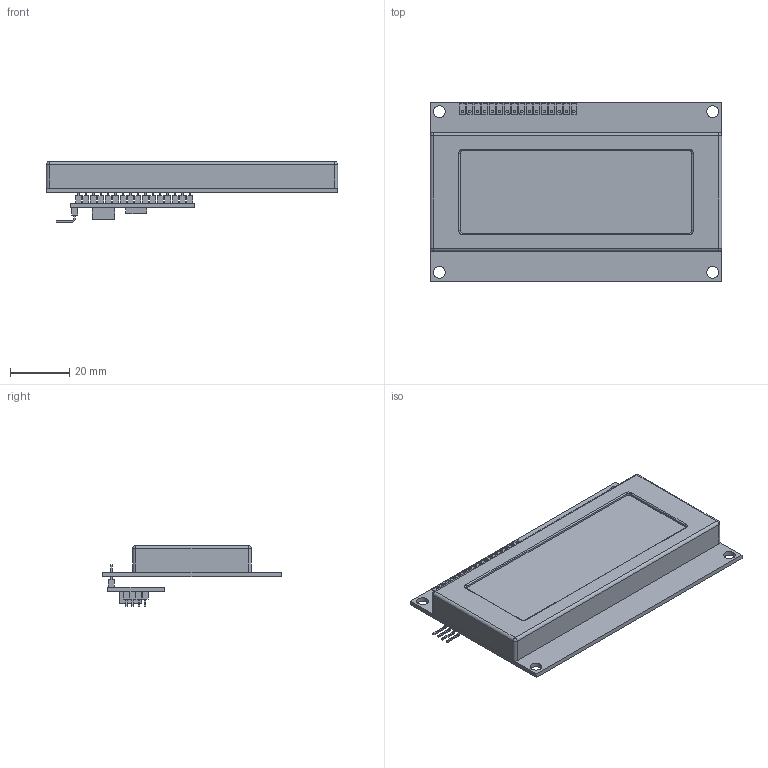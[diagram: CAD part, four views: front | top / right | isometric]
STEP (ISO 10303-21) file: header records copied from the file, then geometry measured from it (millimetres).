
FILE_DESCRIPTION(('FreeCAD Model'),'2;1');
FILE_NAME('Open CASCADE Shape Model','2023-10-11T20:37:50',('Author'),( ''),'Open CASCADE STEP processor 7.5','FreeCAD','Unknown');
FILE_SCHEMA(('AUTOMOTIVE_DESIGN { 1 0 10303 214 1 1 1 1 }'));
Length unit declared in the file: millimetre
Products named in the file (10): display 2004; Body115; Body116; I2C001; PIN011; Array007; Body118; PIN012; Array008; Body119
Assembly tree (27 placements, depth 4):
  display 2004
    Body115
    Body116
    I2C001
    PIN011
      Array007
        Body118  x16
    PIN012
      Array008
        Body119  x4
Bounding box: 98 x 60 x 20.5 mm (x, y, z)
Volume: 43508.7 mm3; surface area: 25388.8 mm2
Topology: 23 solids, 23 shells, 443 faces, 1023 edges, 662 vertices
Faces by surface type: plane 358, cylinder 77, torus 4, sphere 4
Full cylindrical faces by diameter (mm): 0.8 x16, 4 x4, 4.01 x1
Entity records: 14086 total; most frequent: CARTESIAN_POINT 2576, DIRECTION 2201, LINE 1349, VECTOR 1349, ORIENTED_EDGE 1078, PCURVE 1078, DEFINITIONAL_REPRESENTATION 1078, EDGE_CURVE 539
